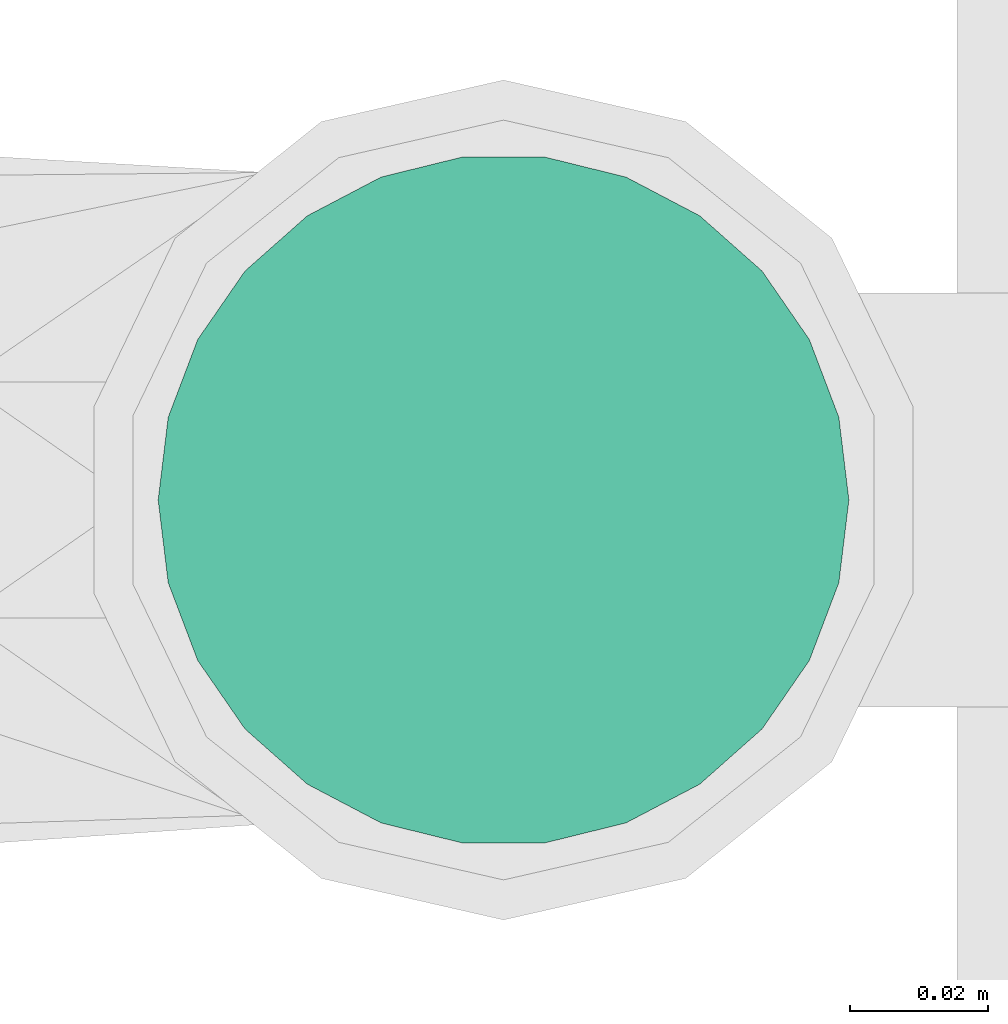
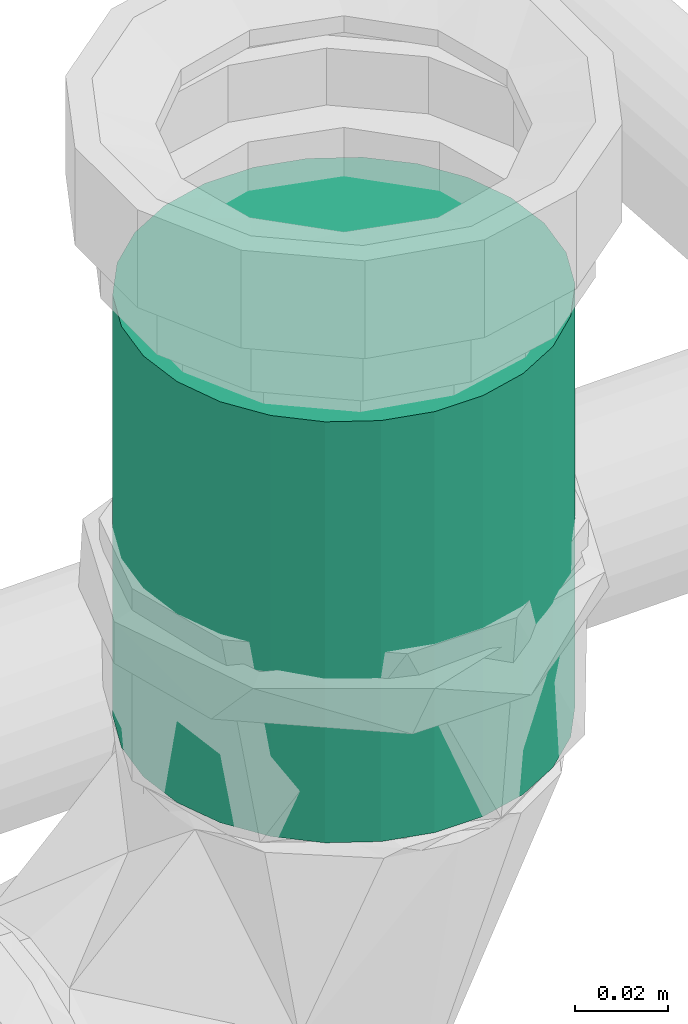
# One storey, part 77 of 589: 1 flow segment.
"""IFC2X3 building model written with IfcOpenShell, lengths in millimetres."""

from ifc_helpers import new_model, entity, si_unit, converted_unit, derived_unit, direction, frame, origin, origin_2d_with_axis, place, context, subcontext, project, spatial, circle, extrude, type_object, element, save


model = new_model("IFC2X3")

# Units and contexts
model_context = context("Model", 3, precision=0.01, world=origin(), true_north=direction((6.123031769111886e-17, 1.0)))
body_context = subcontext(model_context, "Body", "Model", "MODEL_VIEW")
ifc_project = project(units=[si_unit("LENGTHUNIT", "METRE", prefix="MILLI"), si_unit("AREAUNIT", "SQUARE_METRE"), si_unit("VOLUMEUNIT", "CUBIC_METRE"), converted_unit("PLANEANGLEUNIT", "DEGREE", entity("IfcRatioMeasure", 0.017453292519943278), si_unit("PLANEANGLEUNIT", "RADIAN"), dimensions=[0, 0, 0, 0, 0, 0, 0]), si_unit("MASSUNIT", "GRAM", prefix="KILO"), derived_unit("MASSDENSITYUNIT", [(si_unit("MASSUNIT", "GRAM", prefix="KILO"), 1), (si_unit("LENGTHUNIT", "METRE"), -3)]), derived_unit("IONCONCENTRATIONUNIT", [(si_unit("MASSUNIT", "GRAM", prefix="KILO"), 1), (si_unit("LENGTHUNIT", "METRE"), -3)]), derived_unit("MOMENTOFINERTIAUNIT", [(si_unit("LENGTHUNIT", "METRE"), 4)]), si_unit("TIMEUNIT", "SECOND"), si_unit("FREQUENCYUNIT", "HERTZ"), si_unit("THERMODYNAMICTEMPERATUREUNIT", "DEGREE_CELSIUS"), derived_unit("THERMALTRANSMITTANCEUNIT", [(si_unit("MASSUNIT", "GRAM", prefix="KILO"), 1), (si_unit("THERMODYNAMICTEMPERATUREUNIT", "KELVIN"), -1), (si_unit("TIMEUNIT", "SECOND"), -3)]), derived_unit("THERMALCONDUCTANCEUNIT", [(si_unit("MASSUNIT", "GRAM", prefix="KILO"), 1), (si_unit("THERMODYNAMICTEMPERATUREUNIT", "KELVIN"), -1), (si_unit("TIMEUNIT", "SECOND"), -3), (si_unit("LENGTHUNIT", "METRE"), 1)]), derived_unit("VOLUMETRICFLOWRATEUNIT", [(si_unit("LENGTHUNIT", "METRE"), 3), (si_unit("TIMEUNIT", "SECOND"), -1)]), derived_unit("MASSFLOWRATEUNIT", [(si_unit("MASSUNIT", "GRAM", prefix="KILO"), 1), (si_unit("TIMEUNIT", "SECOND"), -1)]), derived_unit("ROTATIONALFREQUENCYUNIT", [(si_unit("TIMEUNIT", "SECOND"), -1)]), si_unit("ELECTRICCURRENTUNIT", "AMPERE"), si_unit("ELECTRICVOLTAGEUNIT", "VOLT"), si_unit("POWERUNIT", "WATT"), si_unit("FORCEUNIT", "NEWTON", prefix="KILO"), si_unit("ILLUMINANCEUNIT", "LUX"), si_unit("LUMINOUSFLUXUNIT", "LUMEN"), si_unit("LUMINOUSINTENSITYUNIT", "CANDELA"), derived_unit("USERDEFINED", [(si_unit("MASSUNIT", "GRAM", prefix="KILO"), -1), (si_unit("LENGTHUNIT", "METRE"), -2), (si_unit("TIMEUNIT", "SECOND"), 3), (si_unit("LUMINOUSFLUXUNIT", "LUMEN"), 1)]), derived_unit("USERDEFINED", [(si_unit("MASSUNIT", "GRAM", prefix="KILO"), 1), (si_unit("TIMEUNIT", "SECOND"), -3), (si_unit("LENGTHUNIT", "METRE"), 3), (si_unit("ELECTRICCURRENTUNIT", "AMPERE"), -2)]), derived_unit("SOUNDPOWERUNIT", [(si_unit("MASSUNIT", "GRAM", prefix="KILO"), 1), (si_unit("TIMEUNIT", "SECOND"), -3), (si_unit("LENGTHUNIT", "METRE"), 2)]), derived_unit("SOUNDPRESSUREUNIT", [(si_unit("MASSUNIT", "GRAM", prefix="KILO"), 1), (si_unit("LENGTHUNIT", "METRE"), -1), (si_unit("TIMEUNIT", "SECOND"), -2)]), derived_unit("LINEARVELOCITYUNIT", [(si_unit("LENGTHUNIT", "METRE"), 1), (si_unit("TIMEUNIT", "SECOND"), -1)]), si_unit("PRESSUREUNIT", "PASCAL"), derived_unit("USERDEFINED", [(si_unit("MASSUNIT", "GRAM", prefix="KILO"), 1), (si_unit("LENGTHUNIT", "METRE"), -2), (si_unit("TIMEUNIT", "SECOND"), -2)]), derived_unit("LINEARFORCEUNIT", [(si_unit("MASSUNIT", "GRAM", prefix="KILO"), 1), (si_unit("TIMEUNIT", "SECOND"), -2)]), derived_unit("PLANARFORCEUNIT", [(si_unit("MASSUNIT", "GRAM", prefix="KILO"), 1), (si_unit("LENGTHUNIT", "METRE"), -1), (si_unit("TIMEUNIT", "SECOND"), -2)]), derived_unit("SPECIFICHEATCAPACITYUNIT", [(si_unit("THERMODYNAMICTEMPERATUREUNIT", "KELVIN"), -1), (si_unit("LENGTHUNIT", "METRE"), 2), (si_unit("TIMEUNIT", "SECOND"), -2)]), derived_unit("HEATINGVALUEUNIT", [(si_unit("LENGTHUNIT", "METRE"), 2), (si_unit("TIMEUNIT", "SECOND"), -2)]), derived_unit("VAPORPERMEABILITYUNIT", [(si_unit("LENGTHUNIT", "METRE"), -1), (si_unit("TIMEUNIT", "SECOND"), 1)]), derived_unit("DYNAMICVISCOSITYUNIT", [(si_unit("MASSUNIT", "GRAM", prefix="KILO"), 1), (si_unit("TIMEUNIT", "SECOND"), -1), (si_unit("LENGTHUNIT", "METRE"), -1)]), derived_unit("THERMALEXPANSIONCOEFFICIENTUNIT", [(si_unit("THERMODYNAMICTEMPERATUREUNIT", "KELVIN"), -1)]), derived_unit("MODULUSOFELASTICITYUNIT", [(si_unit("MASSUNIT", "GRAM", prefix="KILO"), 1), (si_unit("LENGTHUNIT", "METRE"), -1), (si_unit("TIMEUNIT", "SECOND"), -2)]), derived_unit("ISOTHERMALMOISTURECAPACITYUNIT", [(si_unit("LENGTHUNIT", "METRE"), 3), (si_unit("MASSUNIT", "GRAM", prefix="KILO"), -1)]), derived_unit("MOISTUREDIFFUSIVITYUNIT", [(si_unit("TIMEUNIT", "SECOND"), -1), (si_unit("LENGTHUNIT", "METRE"), 2)])], contexts=[model_context])

# Site, building, storey
site_placement = place(None, origin())
site = spatial("IfcSite", under=ifc_project, at=site_placement, Name="Default", CompositionType="ELEMENT")
building_placement = place(site_placement, origin())
building = spatial("IfcBuilding", under=site, at=building_placement, CompositionType="ELEMENT")
storey_placement = place(building_placement, frame((0.0, 0.0, 100.0)))
storey = spatial("IfcBuildingStorey", under=building, at=storey_placement, Name="TÉRREO", CompositionType="ELEMENT", Elevation=100.0)

# Flow segment
pipe_segment_type = type_object("IfcPipeSegmentType", Name="Tipos de tubos:PVC Esgoto Série Normal", PredefinedType="NOTDEFINED")
flow_segment_placement = place(storey_placement, origin())
element("IfcFlowSegment", 1, at=flow_segment_placement, inside=storey, type_object=pipe_segment_type, Name="Tipos de tubos:PVC Esgoto Série Normal", ObjectType="Tipos de tubos:PVC Esgoto Série Normal", context=body_context, shape_type="SweptSolid", body=[
    extrude(circle(Radius=50.0, at=origin_2d_with_axis()), frame((-7221.0123525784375, -528.924137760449, -160.99341101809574)), (0.0, 0.0, 1.0), 110.99341101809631),
])

save(model, "model.ifc")
